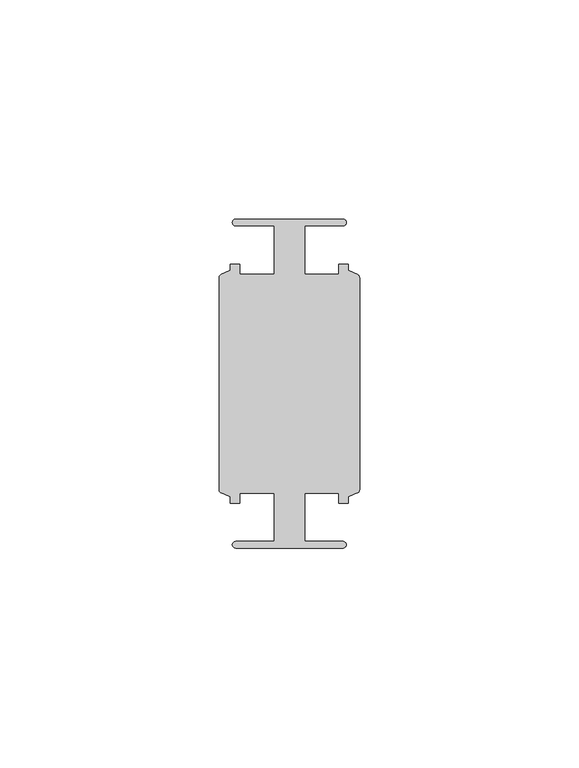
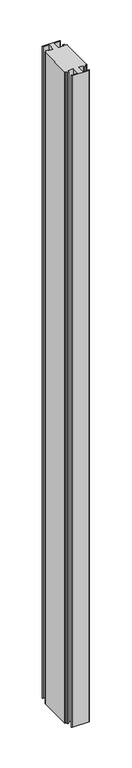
"""IFC4 building model written with IfcOpenShell, lengths in millimetres: member geometry, Прямоугольный импост : 4-AMG-2-Профиль 26Х75 Средний."""

from ifc_helpers import new_model, si_unit, point, frame, frame_2d, origin, place, context, project, spatial, polyline, circle_curve, trimmed, segment, composite_curve, outline, extrude, source, transform, mapped, element, save


def member_2893ac2d(model_context):
    return source(origin(), model_context, "Body", "SweptSolid", [
        extrude(outline(composite_curve([segment(trimmed(circle_curve(frame_2d((12.2876562, 36.75)), 0.75), [point((12.2876562, 37.5))], [point((12.2876562, 36.0))], False, "CARTESIAN"), True, "CONTINUOUS"), segment(polyline([(12.2876562, 36.0), (3.5376562, 36.0), (3.5376562, 25.0), (11.2593767, 25.0), (11.2593767, 27.25), (13.4846403, 27.25), (13.4846403, 25.836597), (15.5572539, 24.9333875)]), True, "CONTINUOUS"), segment(trimmed(circle_curve(frame_2d((15.2376562, 24.2)), 0.8), [point((15.5572539, 24.9333875))], [point((16.0376562, 24.2))], False, "CARTESIAN"), True, "CONTINUOUS"), segment(polyline([(16.0376562, 24.2), (16.0376562, -24.2)]), True, "CONTINUOUS"), segment(trimmed(circle_curve(frame_2d((15.2376562, -24.2)), 0.8), [point((16.0376562, -24.2))], [point((15.5572539, -24.9333875))], False, "CARTESIAN"), True, "CONTINUOUS"), segment(polyline([(15.5572539, -24.9333875), (13.4846403, -25.836597), (13.4846403, -27.25), (11.2593767, -27.25), (11.2593767, -24.9914758), (3.5376562, -24.9914758), (3.5376562, -36.0), (12.2876562, -36.0)]), True, "CONTINUOUS"), segment(trimmed(circle_curve(frame_2d((12.2876562, -36.75)), 0.75), [point((12.2876562, -36.0))], [point((12.2876562, -37.5))], False, "CARTESIAN"), True, "CONTINUOUS"), segment(polyline([(12.2876562, -37.5), (-12.2123438, -37.5)]), True, "CONTINUOUS"), segment(trimmed(circle_curve(frame_2d((-12.2123438, -36.75)), 0.75), [point((-12.2123438, -37.5))], [point((-12.2123438, -36.0))], False, "CARTESIAN"), True, "CONTINUOUS"), segment(polyline([(-12.2123438, -36.0), (-3.4623438, -36.0), (-3.4623438, -24.9913353), (-11.2593767, -24.9913353), (-11.2593767, -27.25), (-13.4093278, -27.25), (-13.4093278, -25.836597), (-15.4819415, -24.9333875)]), True, "CONTINUOUS"), segment(trimmed(circle_curve(frame_2d((-15.1623438, -24.2)), 0.8), [point((-15.4819415, -24.9333875))], [point((-15.9623438, -24.2))], False, "CARTESIAN"), True, "CONTINUOUS"), segment(polyline([(-15.9623438, -24.2), (-15.9623438, 24.2)]), True, "CONTINUOUS"), segment(trimmed(circle_curve(frame_2d((-15.1623438, 24.2)), 0.8), [point((-15.9623438, 24.2))], [point((-15.4819415, 24.9333875))], False, "CARTESIAN"), True, "CONTINUOUS"), segment(polyline([(-15.4819415, 24.9333875), (-13.4093278, 25.836597), (-13.4093278, 27.25), (-11.2593767, 27.25), (-11.2593767, 25.0), (-3.4623438, 25.0), (-3.4623438, 36.0), (-12.2123438, 36.0)]), True, "CONTINUOUS"), segment(trimmed(circle_curve(frame_2d((-12.2123438, 36.75)), 0.75), [point((-12.2123438, 36.0))], [point((-12.2123438, 37.5))], False, "CARTESIAN"), True, "CONTINUOUS"), segment(polyline([(-12.2123438, 37.5), (12.2876562, 37.5)]), True, "CONTINUOUS")], self_intersect=False)), frame((0.0, 0.0, -998.4988789), z_axis=(0.0, 0.0, 1.0), x_axis=(1.0, 0.0, 0.0)), (0.0, 0.0, 1.0), 998.4988789),
    ])


if __name__ == "__main__":
    model = new_model("IFC4")
    model_context = context("Model", 3, world=origin())
    ifc_project = project(units=[si_unit("LENGTHUNIT", "METRE", prefix="MILLI")], contexts=[model_context])
    site = spatial("IfcSite", under=ifc_project)
    building = spatial("IfcBuilding", under=site)
    placement = place(None, origin())
    member_shape = member_2893ac2d(model_context)
    element("IfcMember", 1, ObjectType="Прямоугольный импост : 4-AMG-2-Профиль 26Х75 Средний", at=placement, inside=building, context=model_context, shape_type="MappedRepresentation", body=[
        mapped(member_shape, transform((0.0, 0.0, 0.0), x_axis=(1.0, 0.0, 0.0), y_axis=(0.0, 1.0, 0.0), z_axis=(0.0, 0.0, 1.0))),
    ])
    save(model, "model.ifc")
